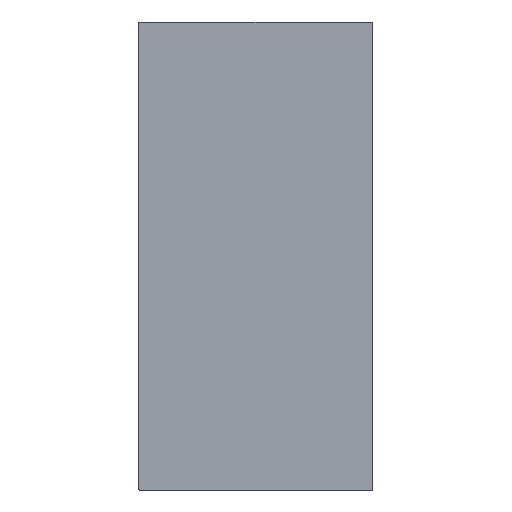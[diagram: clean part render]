
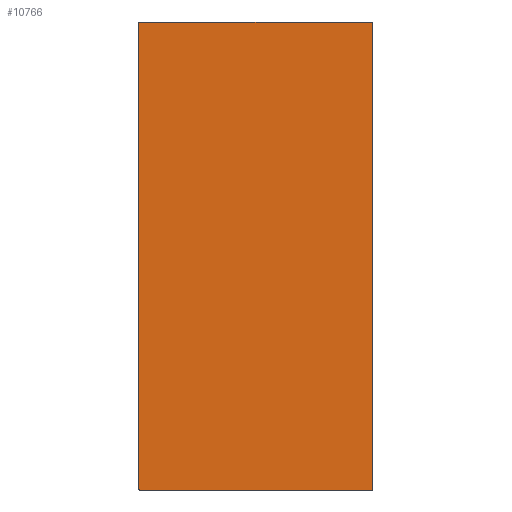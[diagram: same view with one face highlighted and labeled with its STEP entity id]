
A CAD part, front view. The second image highlights one B-rep face of the part: STEP entity #10766.
In plain terms, the highlighted planar face has unit normal (0, -1, 0).
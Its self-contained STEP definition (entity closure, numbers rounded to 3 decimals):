
#139=PLANE('',#12339);
#932=LINE('',#19293,#1668);
#936=LINE('',#19302,#1672);
#956=LINE('',#19390,#1692);
#969=LINE('',#19454,#1705);
#1668=VECTOR('',#15900,10.);
#1672=VECTOR('',#15910,10.);
#1692=VECTOR('',#16058,10.);
#1705=VECTOR('',#16173,10.);
#2810=FACE_OUTER_BOUND('',#3548,.T.);
#3548=EDGE_LOOP('',(#9861,#9862,#9863,#9864,#9865,#9866,#9867,#9868));
#4361=CIRCLE('',#12221,2.);
#4362=CIRCLE('',#12224,2.);
#4363=CIRCLE('',#12282,2.);
#4364=CIRCLE('',#12285,2.);
#5181=VERTEX_POINT('',#19290);
#5182=VERTEX_POINT('',#19292);
#5183=VERTEX_POINT('',#19296);
#5184=VERTEX_POINT('',#19300);
#5185=VERTEX_POINT('',#19304);
#5186=VERTEX_POINT('',#19379);
#5187=VERTEX_POINT('',#19384);
#5188=VERTEX_POINT('',#19386);
#6707=EDGE_CURVE('',#5182,#5181,#932,.T.);
#6710=EDGE_CURVE('',#5183,#5181,#4361,.T.);
#6712=EDGE_CURVE('',#5183,#5184,#936,.T.);
#6714=EDGE_CURVE('',#5185,#5184,#4362,.T.);
#6730=EDGE_CURVE('',#5182,#5186,#4363,.T.);
#6733=EDGE_CURVE('',#5187,#5188,#4364,.T.);
#6735=EDGE_CURVE('',#5185,#5188,#956,.T.);
#6748=EDGE_CURVE('',#5187,#5186,#969,.T.);
#9861=ORIENTED_EDGE('',*,*,#6710,.F.);
#9862=ORIENTED_EDGE('',*,*,#6712,.T.);
#9863=ORIENTED_EDGE('',*,*,#6714,.F.);
#9864=ORIENTED_EDGE('',*,*,#6735,.T.);
#9865=ORIENTED_EDGE('',*,*,#6733,.F.);
#9866=ORIENTED_EDGE('',*,*,#6748,.T.);
#9867=ORIENTED_EDGE('',*,*,#6730,.F.);
#9868=ORIENTED_EDGE('',*,*,#6707,.T.);
#10766=ADVANCED_FACE('',(#2810),#139,.T.);
#12221=AXIS2_PLACEMENT_3D('',#19298,#15905,#15906);
#12224=AXIS2_PLACEMENT_3D('',#19306,#15914,#15915);
#12282=AXIS2_PLACEMENT_3D('',#19380,#16045,#16046);
#12285=AXIS2_PLACEMENT_3D('',#19387,#16053,#16054);
#12339=AXIS2_PLACEMENT_3D('',#19456,#16176,#16177);
#15900=DIRECTION('',(1.,0.,0.));
#15905=DIRECTION('center_axis',(0.,1.,0.));
#15906=DIRECTION('ref_axis',(0.707,0.,-0.707));
#15910=DIRECTION('',(0.,0.,1.));
#15914=DIRECTION('center_axis',(0.,1.,0.));
#15915=DIRECTION('ref_axis',(0.707,0.,0.707));
#16045=DIRECTION('center_axis',(0.,1.,0.));
#16046=DIRECTION('ref_axis',(-0.707,0.,-0.707));
#16053=DIRECTION('center_axis',(0.,1.,0.));
#16054=DIRECTION('ref_axis',(-0.707,0.,0.707));
#16058=DIRECTION('',(-1.,0.,0.));
#16173=DIRECTION('',(0.,0.,-1.));
#16176=DIRECTION('center_axis',(0.,-1.,0.));
#16177=DIRECTION('ref_axis',(0.,0.,-1.));
#19290=CARTESIAN_POINT('',(248.,-9.,-500.));
#19292=CARTESIAN_POINT('',(-248.,-9.,-500.));
#19293=CARTESIAN_POINT('',(250.,-9.,-500.));
#19296=CARTESIAN_POINT('',(250.,-9.,-498.));
#19298=CARTESIAN_POINT('Origin',(248.,-9.,-498.));
#19300=CARTESIAN_POINT('',(250.,-9.,498.));
#19302=CARTESIAN_POINT('',(250.,-9.,500.));
#19304=CARTESIAN_POINT('',(248.,-9.,500.));
#19306=CARTESIAN_POINT('Origin',(248.,-9.,498.));
#19379=CARTESIAN_POINT('',(-250.,-9.,-498.));
#19380=CARTESIAN_POINT('Origin',(-248.,-9.,-498.));
#19384=CARTESIAN_POINT('',(-250.,-9.,498.));
#19386=CARTESIAN_POINT('',(-248.,-9.,500.));
#19387=CARTESIAN_POINT('Origin',(-248.,-9.,498.));
#19390=CARTESIAN_POINT('',(-250.,-9.,500.));
#19454=CARTESIAN_POINT('',(-250.,-9.,-500.));
#19456=CARTESIAN_POINT('Origin',(0.,-9.,0.));
